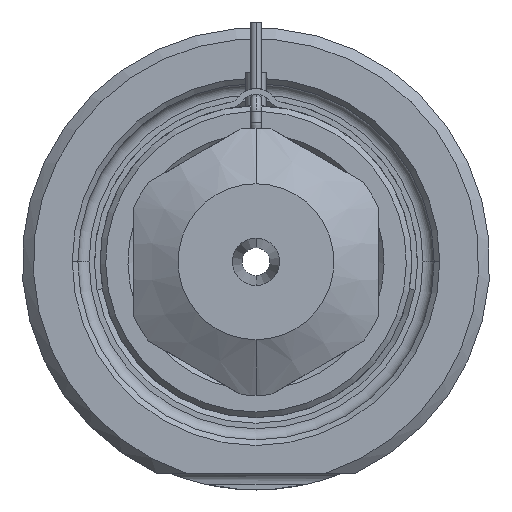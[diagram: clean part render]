
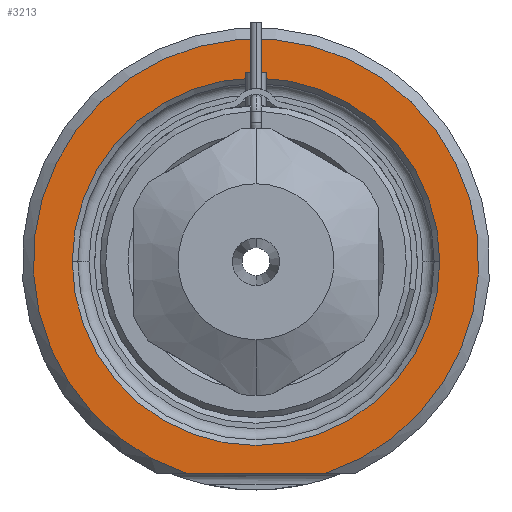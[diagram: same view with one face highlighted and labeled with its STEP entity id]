
A CAD part, front view. The second image highlights one B-rep face of the part: STEP entity #3213.
In plain terms, the highlighted planar face has unit normal (0, -1, 0).
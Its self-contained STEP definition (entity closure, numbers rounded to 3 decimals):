
#1=DIRECTION('',(1.,0.,0.));
#2=VECTOR('',#1,12.49);
#3=CARTESIAN_POINT('',(-6.245,0.,-19.));
#4=LINE('',#3,#2);
#5=CARTESIAN_POINT('',(0.,0.,0.));
#6=DIRECTION('',(0.,1.,0.));
#7=DIRECTION('',(-1.,0.,0.));
#8=AXIS2_PLACEMENT_3D('',#5,#6,#7);
#10=CARTESIAN_POINT('',(0.,0.,0.));
#11=DIRECTION('',(0.,1.,0.));
#12=DIRECTION('',(1.,0.,0.));
#13=AXIS2_PLACEMENT_3D('',#10,#11,#12);
#119=CARTESIAN_POINT('',(0.,0.,0.));
#120=DIRECTION('',(0.,-1.,0.));
#121=DIRECTION('',(0.312,0.,-0.95));
#122=AXIS2_PLACEMENT_3D('',#119,#120,#121);
#2666=CARTESIAN_POINT('',(-16.5,0.,0.));
#2667=CARTESIAN_POINT('',(16.5,0.,0.));
#2668=VERTEX_POINT('',#2666);
#2669=VERTEX_POINT('',#2667);
#2706=CARTESIAN_POINT('',(-6.245,0.,-19.));
#2707=CARTESIAN_POINT('',(6.245,0.,-19.));
#2708=VERTEX_POINT('',#2706);
#2709=VERTEX_POINT('',#2707);
#3196=CARTESIAN_POINT('',(0.,0.,0.));
#3197=DIRECTION('',(0.,-1.,0.));
#3198=DIRECTION('',(1.,0.,0.));
#3199=AXIS2_PLACEMENT_3D('',#3196,#3197,#3198);
#3200=PLANE('',#3199);
#3202=ORIENTED_EDGE('',*,*,#3201,.F.);
#3204=ORIENTED_EDGE('',*,*,#3203,.F.);
#3205=EDGE_LOOP('',(#3202,#3204));
#3206=FACE_OUTER_BOUND('',#3205,.F.);
#3208=ORIENTED_EDGE('',*,*,#3207,.F.);
#3210=ORIENTED_EDGE('',*,*,#3209,.F.);
#3211=EDGE_LOOP('',(#3208,#3210));
#3212=FACE_BOUND('',#3211,.F.);
#3213=ADVANCED_FACE('',(#3206,#3212),#3200,.T.);
#9=CIRCLE('',#8,16.5);
#14=CIRCLE('',#13,16.5);
#123=CIRCLE('',#122,20.);
#3201=EDGE_CURVE('',#2708,#2709,#4,.T.);
#3203=EDGE_CURVE('',#2709,#2708,#123,.T.);
#3207=EDGE_CURVE('',#2668,#2669,#9,.T.);
#3209=EDGE_CURVE('',#2669,#2668,#14,.T.);
